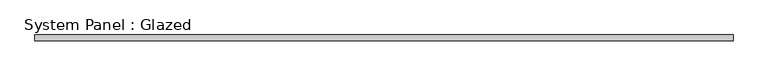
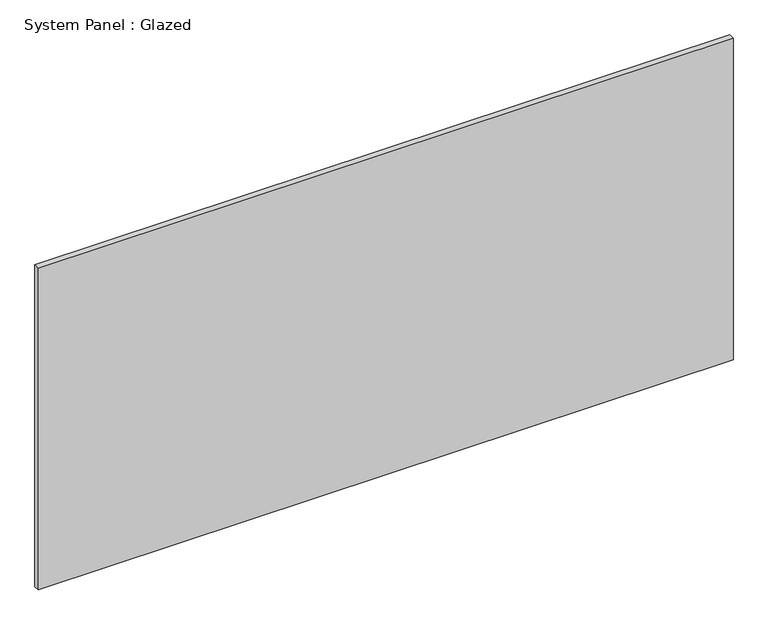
"""IFC4 building model written with IfcOpenShell, lengths in millimetres: plate geometry, System Panel : Glazed."""

from ifc_helpers import new_model, si_unit, origin, origin_with_axes, place, context, project, spatial, polyline, outline, extrude, source, transform, mapped, element, save


def system_panel_glazed_6a47cd84(model_context):
    return source(origin(), model_context, "Body", "SweptSolid", [
        extrude(outline(polyline([(1492.2499999, 19.05), (-1492.2499999, 19.05), (-1492.2499999, 44.45), (1492.2499999, 44.45), (1492.2499999, 19.05)])), origin_with_axes(), (0.0, 0.0, 1.0), 1460.5),
    ])


if __name__ == "__main__":
    model = new_model("IFC4")
    model_context = context("Model", 3, world=origin())
    ifc_project = project(units=[si_unit("LENGTHUNIT", "METRE", prefix="MILLI")], contexts=[model_context])
    site = spatial("IfcSite", under=ifc_project)
    building = spatial("IfcBuilding", under=site)
    placement = place(None, origin())
    system_panel_glazed_shape = system_panel_glazed_6a47cd84(model_context)
    element("IfcPlate", 1, ObjectType="System Panel : Glazed", at=placement, inside=building, context=model_context, shape_type="MappedRepresentation", body=[
        mapped(system_panel_glazed_shape, transform((0.0, 0.0, 0.0), x_axis=(1.0, 0.0, 0.0), y_axis=(0.0, 1.0, 0.0), z_axis=(0.0, 0.0, 1.0))),
    ])
    save(model, "model.ifc")
